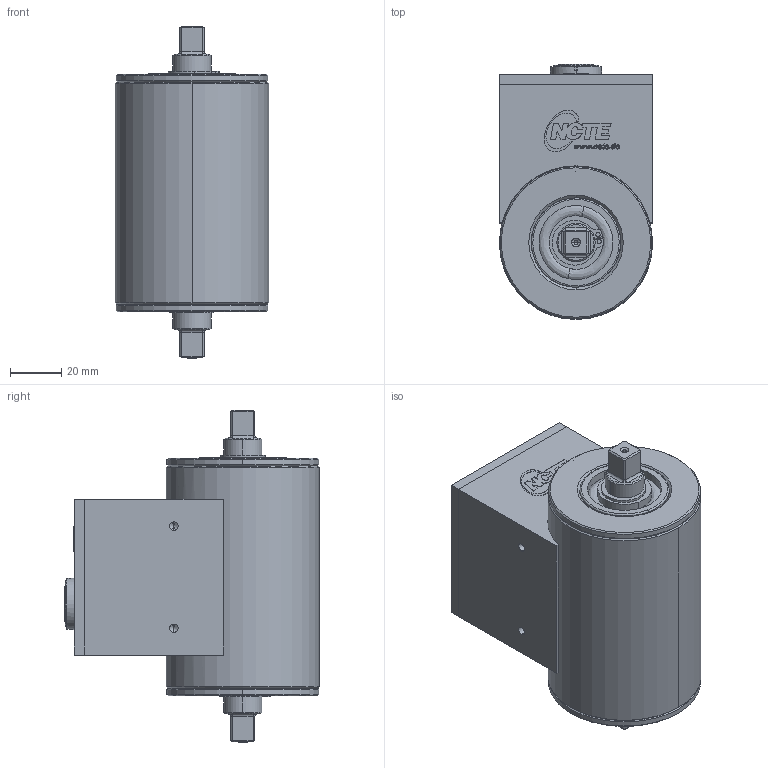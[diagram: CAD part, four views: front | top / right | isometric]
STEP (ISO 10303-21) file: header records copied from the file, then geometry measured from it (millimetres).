
FILE_DESCRIPTION (( 'STEP AP214' ), '1' );
FILE_NAME ('400007-ATS013_Sensor_Mb_50-100Nm_Vierkant_ohne_WS_IP65.STEP', '2016-11-28T15:51:07', ( '' ), ( '' ), 'SwSTEP 2.0', 'SolidWorks 2016', '' );
FILE_SCHEMA (( 'AUTOMOTIVE_DESIGN' ));
Length unit declared in the file: millimetre
Products named in the file (14): 999999-ATE042_Buchse-09-0132-90-12_12Pol_Standard; DIN 7991 - M3 x 10 --- 10S_DIN 7991 - M3 x 10 --- 10S; Kugellager DIN 625_DIN 625 - 6202 - 10,SI,NC,10_68; 400007-ATM015_Elektronikgehaeuse_Mb_50-100Nm; Passscheibe DIN 988_DIN 988-25x35x0.5; 400007-ATS013_Sensor_Mb_50-100Nm_Vierkant_ohne_WS_IP65; 400007-ATM009_Rohrgehaeuse_Mb_50-100Nm; 999999-ATE072_Folientaster beleuchtet_Standard; Seegering DIN 471_Circlip DIN 471 - 15 x 1; Senkschraube mit Innensechskant DIN 7991_DIN 7991 - M4 x 10 --- 10S; 999999-ATM001_Tellerfeder_k_vorgespannt34,6x22,4x0,5_Standard; 400007-ATM002_Welle15mm_Mb_50-100_Nm_Vierkant; 400007-ATM012_Lagerdeckel_Mb-50-100Nm; 400007-ATM018_Deckel_Elektronikgehäuse_Mb_50-100Nm
Assembly tree (21 placements, depth 2):
  400007-ATS013_Sensor_Mb_50-100Nm_Vierkant_ohne_WS_IP65
    400007-ATM002_Welle15mm_Mb_50-100_Nm_Vierkant
    400007-ATM009_Rohrgehaeuse_Mb_50-100Nm
    400007-ATM012_Lagerdeckel_Mb-50-100Nm  x2
    400007-ATM015_Elektronikgehaeuse_Mb_50-100Nm
    Senkschraube mit Innensechskant DIN 7991_DIN 7991 - M4 x 10 --- 10S  x2
    DIN 7991 - M3 x 10 --- 10S_DIN 7991 - M3 x 10 --- 10S  x4
    999999-ATE072_Folientaster beleuchtet_Standard
    999999-ATE042_Buchse-09-0132-90-12_12Pol_Standard
    999999-ATM001_Tellerfeder_k_vorgespannt34,6x22,4x0,5_Standard
    Passscheibe DIN 988_DIN 988-25x35x0.5  x2
    Kugellager DIN 625_DIN 625 - 6202 - 10,SI,NC,10_68  x2
    Seegering DIN 471_Circlip DIN 471 - 15 x 1  x2
    400007-ATM018_Deckel_Elektronikgehäuse_Mb_50-100Nm
Bounding box: 60 x 99.8 x 130 mm (x, y, z)
Surface area: 107666.7 mm2 (no closed solid volume)
Topology: 0 solids, 21 shells, 1538 faces, 3605 edges, 2150 vertices
Faces by surface type: cone 522, cylinder 492, plane 377, bspline 143, torus 4
Entity records: 31869 total; most frequent: CARTESIAN_POINT 8439, DIRECTION 4727, ORIENTED_EDGE 4714, EDGE_CURVE 2357, AXIS2_PLACEMENT_3D 1761, VERTEX_POINT 1477, LINE 1205, VECTOR 1205
